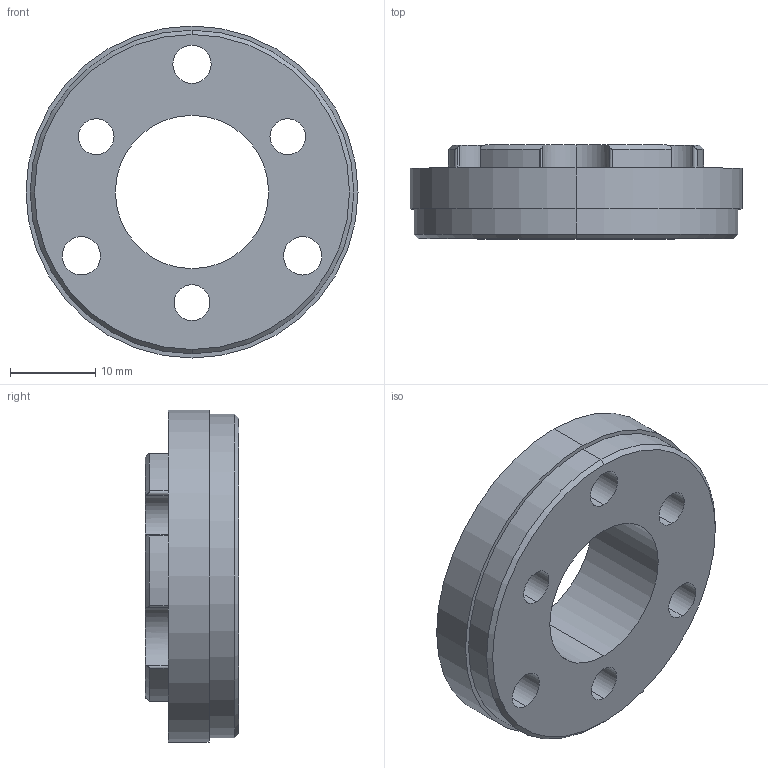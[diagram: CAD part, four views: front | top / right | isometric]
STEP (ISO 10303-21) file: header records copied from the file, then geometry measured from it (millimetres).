
FILE_DESCRIPTION (( 'STEP AP203' ), '1' );
FILE_NAME ('AD36012-HP-65-Adapter-fuer-SPF-IUX-65.STEP', '2017-08-28T13:50:57', ( '' ), ( '' ), 'SwSTEP 2.0', 'SolidWorks 2016', '' );
FILE_SCHEMA (( 'CONFIG_CONTROL_DESIGN' ));
Length unit declared in the file: millimetre
Products named in the file (1): AD36012-HP-65-Adapter-fuer-SPF-IUX-65
Bounding box: 39 x 11 x 39 mm (x, y, z)
Volume: 7294.2 mm3; surface area: 4412.2 mm2
Topology: 1 solids, 1 shells, 65 faces, 181 edges, 120 vertices
Faces by surface type: cylinder 50, cone 8, plane 7
Entity records: 2318 total; most frequent: CARTESIAN_POINT 499, DIRECTION 383, ORIENTED_EDGE 362, EDGE_CURVE 181, AXIS2_PLACEMENT_3D 164, VERTEX_POINT 120, CIRCLE 98, EDGE_LOOP 81
